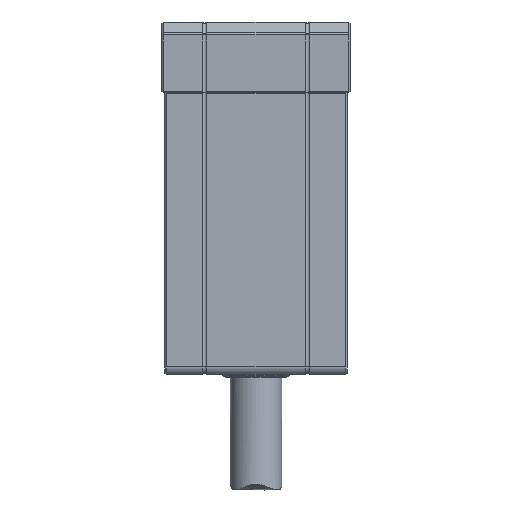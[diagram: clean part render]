
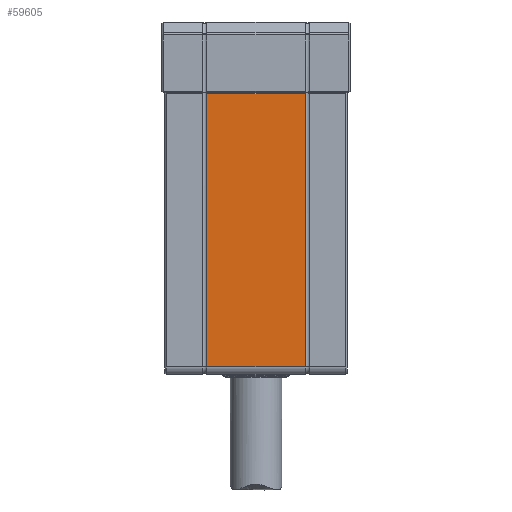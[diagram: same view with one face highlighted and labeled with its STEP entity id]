
A CAD part, left-side view. The second image highlights one B-rep face of the part: STEP entity #59605.
In plain terms, the highlighted planar face has unit normal (-1, 0, 0).
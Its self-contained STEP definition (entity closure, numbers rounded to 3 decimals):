
#2178 = VECTOR ( 'NONE', #5172, 1000. ) ;
#4450 = ORIENTED_EDGE ( 'NONE', *, *, #80333, .F. ) ;
#5172 = DIRECTION ( 'NONE',  ( 0., 0., -1. ) ) ;
#13935 = CARTESIAN_POINT ( 'NONE',  ( -40., 8.36, -12.2 ) ) ;
#21544 = DIRECTION ( 'NONE',  ( -1., 0., 0. ) ) ;
#23298 = EDGE_LOOP ( 'NONE', ( #4450, #81080, #45175, #61095 ) ) ;
#26661 = VERTEX_POINT ( 'NONE', #29951 ) ;
#27610 = CARTESIAN_POINT ( 'NONE',  ( -40., 8.36, -58.7 ) ) ;
#27634 = AXIS2_PLACEMENT_3D ( 'NONE', #67076, #21544, #75782 ) ;
#29951 = CARTESIAN_POINT ( 'NONE',  ( -40., 8.36, -58.7 ) ) ;
#32214 = EDGE_CURVE ( 'NONE', #26661, #51655, #35153, .T. ) ;
#34263 = EDGE_CURVE ( 'NONE', #26661, #67484, #37560, .T. ) ;
#34795 = CARTESIAN_POINT ( 'NONE',  ( -40., -8.36, -12.2 ) ) ;
#35153 = LINE ( 'NONE', #36461, #57877 ) ;
#36461 = CARTESIAN_POINT ( 'NONE',  ( -40., -15.5, -58.7 ) ) ;
#37560 = LINE ( 'NONE', #27610, #86512 ) ;
#39138 = LINE ( 'NONE', #70915, #2178 ) ;
#40308 = VERTEX_POINT ( 'NONE', #34795 ) ;
#42155 = CARTESIAN_POINT ( 'NONE',  ( -40., -8.36, -58.7 ) ) ;
#45175 = ORIENTED_EDGE ( 'NONE', *, *, #34263, .F. ) ;
#50938 = LINE ( 'NONE', #77868, #52870 ) ;
#51655 = VERTEX_POINT ( 'NONE', #42155 ) ;
#52870 = VECTOR ( 'NONE', #65513, 1000. ) ;
#57877 = VECTOR ( 'NONE', #63359, 1000. ) ;
#59605 = ADVANCED_FACE ( 'NONE', ( #72858 ), #80322, .T. ) ;
#61095 = ORIENTED_EDGE ( 'NONE', *, *, #32214, .T. ) ;
#62370 = DIRECTION ( 'NONE',  ( 0., 0., 1. ) ) ;
#63359 = DIRECTION ( 'NONE',  ( 0., -1., 0. ) ) ;
#65513 = DIRECTION ( 'NONE',  ( 0., 1., 0. ) ) ;
#67076 = CARTESIAN_POINT ( 'NONE',  ( -40., 15.5, -60. ) ) ;
#67484 = VERTEX_POINT ( 'NONE', #13935 ) ;
#70915 = CARTESIAN_POINT ( 'NONE',  ( -40., -8.36, -58.7 ) ) ;
#72858 = FACE_OUTER_BOUND ( 'NONE', #23298, .T. ) ;
#75782 = DIRECTION ( 'NONE',  ( 0., 1., 0. ) ) ;
#77868 = CARTESIAN_POINT ( 'NONE',  ( -40., 15.5, -12.2 ) ) ;
#80322 = PLANE ( 'NONE',  #27634 ) ;
#80333 = EDGE_CURVE ( 'NONE', #40308, #51655, #39138, .T. ) ;
#81080 = ORIENTED_EDGE ( 'NONE', *, *, #81296, .T. ) ;
#81296 = EDGE_CURVE ( 'NONE', #40308, #67484, #50938, .T. ) ;
#86512 = VECTOR ( 'NONE', #62370, 1000. ) ;
